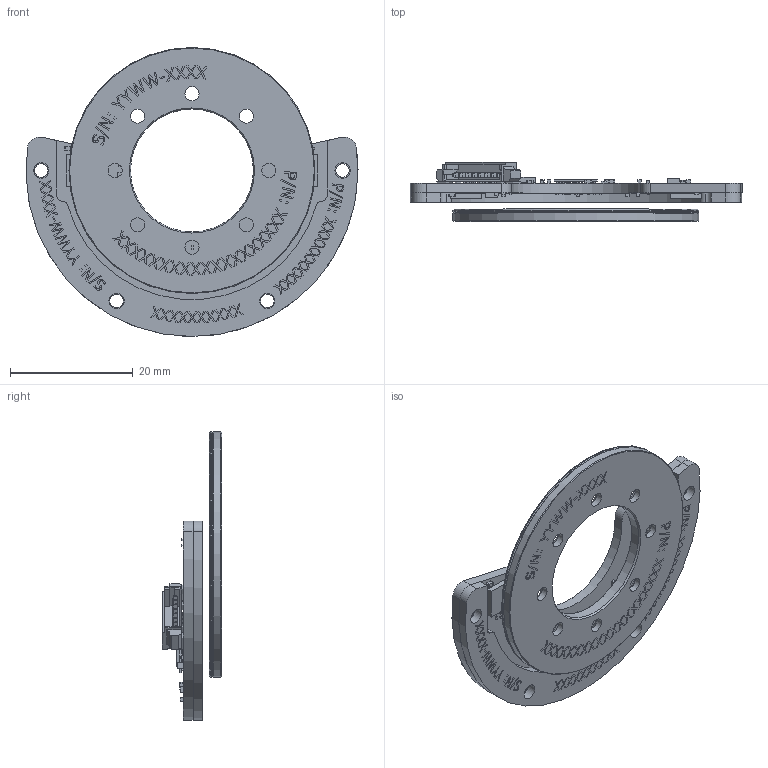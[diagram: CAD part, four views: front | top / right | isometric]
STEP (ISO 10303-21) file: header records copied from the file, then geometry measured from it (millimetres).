
FILE_DESCRIPTION(/* description */ (''),/* implementation_level */ '2;1');
FILE_NAME(/* name */ 'STN-40K-A.00.00 SB_REV.00 (WITH ADAPTER).stp',/* time_stamp */ '2026-02-12T09:57:51+02:00',/* author */ ('DonatasG'),/* organization */ (''),/* preprocessor_version */ 'ST-DEVELOPER v20.1',/* originating_system */ 'Autodesk Inventor 2026',/* authorisation */ '');
FILE_SCHEMA (('AUTOMOTIVE_DESIGN { 1 0 10303 214 3 1 1 }'));
Length unit declared in the file: millimetre
Products named in the file (21): STN-40K-A.00.00 SB; STN-40K.02.00 SB_REV.00 (ROTOR); AR50M.02.02; STN-40K.02.01; STN-40K-A.00.01_REV.00 (ADAPTER); STN-39K; STN-39K_BOARD; SON65P300X300X100-9N-D_THVD1451DRBR_1; XC6223T3319R-G_NCP114AMX330TBG_1; R_0402_Res1_12; R_0603_Res1_7; SOT23-3_SI2371EDS-T1-BE3_SI2371EDS-T1-BE3_1; QFN50P500X500X90_HS-33L_IC_PZ_3; 0402-A5201520_Inductor_3; WFDFPN8(MLP8)_M24C16_9pin_epad_1; AMPHENOL_10114830-11108LF_10_pin_RLS_108_1; BGA169C50P13X13_700X700X60_STM32H725AGI3_1; CAPC0603X33N_Cap_Semi_4; CAP_0402_(1005_METRIC)_Cap_Semi_7; CAPC0603X33N_Cap_Semi_4_1; CAP_0603_(1608_METRIC)_Cap_Semi_11
Assembly tree (76 placements, depth 3):
  STN-40K-A.00.00 SB
    STN-40K.02.00 SB_REV.00 (ROTOR)
      AR50M.02.02
      STN-40K.02.01
    STN-40K-A.00.01_REV.00 (ADAPTER)
    STN-39K
      STN-39K_BOARD
      SON65P300X300X100-9N-D_THVD1451DRBR_1
      XC6223T3319R-G_NCP114AMX330TBG_1
      R_0402_Res1_12  x11
      R_0603_Res1_7
      SOT23-3_SI2371EDS-T1-BE3_SI2371EDS-T1-BE3_1
      QFN50P500X500X90_HS-33L_IC_PZ_3  x2
      0402-A5201520_Inductor_3  x3
      WFDFPN8(MLP8)_M24C16_9pin_epad_1  x2
      AMPHENOL_10114830-11108LF_10_pin_RLS_108_1
      BGA169C50P13X13_700X700X60_STM32H725AGI3_1
      CAPC0603X33N_Cap_Semi_4  x33
      CAP_0402_(1005_METRIC)_Cap_Semi_7  x10
      CAPC0603X33N_Cap_Semi_4_1  x2
      CAP_0603_(1608_METRIC)_Cap_Semi_11
Bounding box: 53.99 x 9.63 x 47 mm (x, y, z)
Volume: 4375.6 mm3; surface area: 8052.6 mm2
Topology: 389 solids, 389 shells, 2875 faces, 7129 edges, 4607 vertices
Faces by surface type: plane 1573, cylinder 835, sphere 449, cone 17, torus 1
Full cylindrical faces by diameter (mm): 0.163 x1, 0.375 x1, 0.875 x1, 2.2 x4, 2.3 x8, 2.5 x4, 20 x1, 30 x1, 30.5 x1, 33.6 x1, 38.4 x1, 40 x2
Entity records: 35005 total; most frequent: CARTESIAN_POINT 6219, ORIENTED_EDGE 5432, DIRECTION 5377, EDGE_CURVE 2716, VERTEX_POINT 2271, LINE 2135, VECTOR 2135, AXIS2_PLACEMENT_3D 1621
